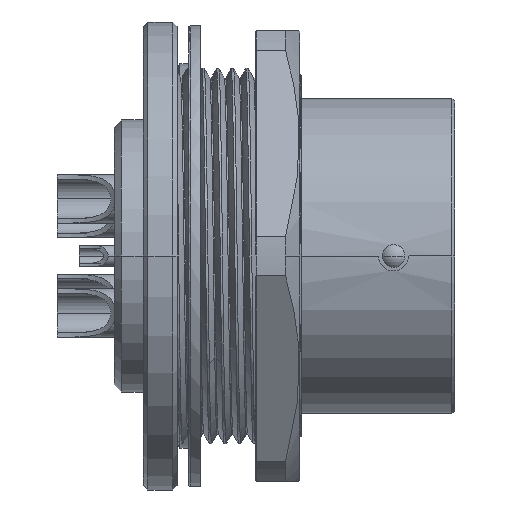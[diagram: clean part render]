
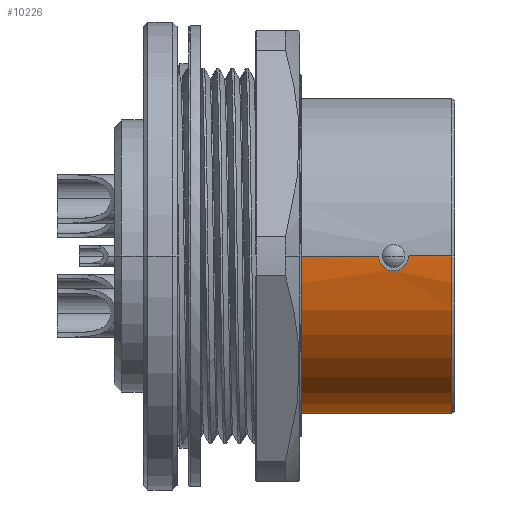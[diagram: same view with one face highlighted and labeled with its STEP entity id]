
A CAD part, front view. The second image highlights one B-rep face of the part: STEP entity #10226.
In plain terms, the highlighted cylindrical face has radius 10.8 mm (diameter 21.6 mm), a partial arc.
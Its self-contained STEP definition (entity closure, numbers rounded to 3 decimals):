
#3706=CARTESIAN_POINT('',(12.8,17.052,-17.05));
#3707=DIRECTION('',(1.,0.,0.));
#3708=DIRECTION('',(0.,-1.,0.));
#3709=AXIS2_PLACEMENT_3D('',#3706,#3707,#3708);
#3711=CARTESIAN_POINT('',(20.125,6.252,-17.05));
#3712=CARTESIAN_POINT('',(20.125,6.252,-17.159));
#3713=CARTESIAN_POINT('',(20.092,6.255,-17.367));
#3714=CARTESIAN_POINT('',(19.945,6.268,-17.661));
#3715=CARTESIAN_POINT('',(19.71,6.284,-17.895));
#3716=CARTESIAN_POINT('',(19.424,6.297,-18.04));
#3717=CARTESIAN_POINT('',(19.102,6.302,-18.092));
#3718=CARTESIAN_POINT('',(18.775,6.297,-18.04));
#3719=CARTESIAN_POINT('',(18.489,6.284,-17.893));
#3720=CARTESIAN_POINT('',(18.259,6.268,-17.665));
#3721=CARTESIAN_POINT('',(18.109,6.255,-17.373));
#3722=CARTESIAN_POINT('',(18.076,6.252,-17.162));
#3723=CARTESIAN_POINT('',(18.075,6.252,-17.05));
#3725=DIRECTION('',(1.,0.,0.));
#3726=VECTOR('',#3725,8.68);
#3727=CARTESIAN_POINT('',(12.8,27.852,-17.05));
#3728=LINE('',#3727,#3726);
#3739=CARTESIAN_POINT('',(22.52,27.852,-17.05));
#3741=DIRECTION('',(1.,0.,0.));
#3742=VECTOR('',#3741,0.58);
#3743=CARTESIAN_POINT('',(22.52,27.852,-17.05));
#3744=LINE('',#3743,#3742);
#3771=DIRECTION('',(1.,0.,0.));
#3772=VECTOR('',#3771,2.975);
#3773=CARTESIAN_POINT('',(20.125,6.252,-17.05));
#3774=LINE('',#3773,#3772);
#3775=CARTESIAN_POINT('',(22.52,27.852,-17.05));
#3776=CARTESIAN_POINT('',(22.52,27.852,-17.122));
#3777=CARTESIAN_POINT('',(22.492,27.85,-17.254));
#3778=CARTESIAN_POINT('',(22.376,27.846,-17.428));
#3779=CARTESIAN_POINT('',(22.209,27.841,-17.54));
#3780=CARTESIAN_POINT('',(22.002,27.839,-17.584));
#3781=CARTESIAN_POINT('',(21.797,27.841,-17.542));
#3782=CARTESIAN_POINT('',(21.626,27.845,-17.431));
#3783=CARTESIAN_POINT('',(21.508,27.85,-17.255));
#3784=CARTESIAN_POINT('',(21.48,27.852,-17.122));
#3785=CARTESIAN_POINT('',(21.48,27.852,-17.05));
#3787=DIRECTION('',(1.,0.,0.));
#3788=VECTOR('',#3787,5.275);
#3789=CARTESIAN_POINT('',(12.8,6.252,-17.05));
#3790=LINE('',#3789,#3788);
#3791=CARTESIAN_POINT('',(19.86,22.452,-26.403));
#3792=CARTESIAN_POINT('',(19.86,22.367,-26.452));
#3793=CARTESIAN_POINT('',(19.826,22.208,-26.541));
#3794=CARTESIAN_POINT('',(19.686,21.992,-26.655));
#3795=CARTESIAN_POINT('',(19.481,21.839,-26.732));
#3796=CARTESIAN_POINT('',(19.232,21.756,-26.772));
#3797=CARTESIAN_POINT('',(18.966,21.756,-26.772));
#3798=CARTESIAN_POINT('',(18.718,21.839,-26.731));
#3799=CARTESIAN_POINT('',(18.514,21.992,-26.654));
#3800=CARTESIAN_POINT('',(18.374,22.208,-26.541));
#3801=CARTESIAN_POINT('',(18.34,22.367,-26.452));
#3802=CARTESIAN_POINT('',(18.34,22.452,-26.403));
#3804=CARTESIAN_POINT('',(23.1,17.052,-17.05));
#3805=DIRECTION('',(-1.,0.,0.));
#3806=DIRECTION('',(0.,1.,0.));
#3807=AXIS2_PLACEMENT_3D('',#3804,#3805,#3806);
#3809=CARTESIAN_POINT('',(23.1,17.052,-17.05));
#3810=DIRECTION('',(-1.,0.,0.));
#3811=DIRECTION('',(0.,0.,-1.));
#3812=AXIS2_PLACEMENT_3D('',#3809,#3810,#3811);
#4567=CARTESIAN_POINT('',(19.86,22.452,-26.403));
#4568=CARTESIAN_POINT('',(19.86,22.493,-26.379));
#4569=CARTESIAN_POINT('',(19.852,22.575,-26.331));
#4570=CARTESIAN_POINT('',(19.813,22.697,-26.258));
#4571=CARTESIAN_POINT('',(19.749,22.808,-26.188));
#4572=CARTESIAN_POINT('',(19.667,22.903,-26.128));
#4573=CARTESIAN_POINT('',(19.572,22.978,-26.079));
#4574=CARTESIAN_POINT('',(19.476,23.033,-26.042));
#4575=CARTESIAN_POINT('',(19.382,23.072,-26.017));
#4576=CARTESIAN_POINT('',(19.289,23.097,-25.999));
#4577=CARTESIAN_POINT('',(19.195,23.113,-25.989));
#4578=CARTESIAN_POINT('',(19.101,23.118,-25.986));
#4579=CARTESIAN_POINT('',(19.005,23.113,-25.989));
#4580=CARTESIAN_POINT('',(18.912,23.098,-25.999));
#4581=CARTESIAN_POINT('',(18.819,23.072,-26.016));
#4582=CARTESIAN_POINT('',(18.726,23.034,-26.042));
#4583=CARTESIAN_POINT('',(18.629,22.98,-26.078));
#4584=CARTESIAN_POINT('',(18.533,22.903,-26.128));
#4585=CARTESIAN_POINT('',(18.45,22.807,-26.189));
#4586=CARTESIAN_POINT('',(18.387,22.696,-26.258));
#4587=CARTESIAN_POINT('',(18.349,22.576,-26.331));
#4588=CARTESIAN_POINT('',(18.34,22.494,-26.379));
#4589=CARTESIAN_POINT('',(18.34,22.452,-26.403));
#5139=CARTESIAN_POINT('',(12.8,27.852,-17.05));
#5140=CARTESIAN_POINT('',(12.8,6.252,-17.05));
#5141=VERTEX_POINT('',#5139);
#5142=VERTEX_POINT('',#5140);
#5143=CARTESIAN_POINT('',(20.125,6.252,-17.05));
#5144=CARTESIAN_POINT('',(23.1,6.252,-17.05));
#5145=VERTEX_POINT('',#5143);
#5146=VERTEX_POINT('',#5144);
#5147=VERTEX_POINT('',#3723);
#5148=CARTESIAN_POINT('',(21.48,27.852,-17.05));
#5149=VERTEX_POINT('',#5148);
#5150=VERTEX_POINT('',#3739);
#5151=CARTESIAN_POINT('',(23.1,27.852,-17.05));
#5152=VERTEX_POINT('',#5151);
#5185=VERTEX_POINT('',#3791);
#5186=VERTEX_POINT('',#3802);
#5191=CARTESIAN_POINT('',(23.1,17.052,-27.85));
#5192=VERTEX_POINT('',#5191);
#10201=CARTESIAN_POINT('',(-1.165,17.052,-17.05));
#10202=DIRECTION('',(1.,0.,0.));
#10203=DIRECTION('',(0.,-1.,0.));
#10204=AXIS2_PLACEMENT_3D('',#10201,#10202,#10203);
#10205=CYLINDRICAL_SURFACE('',#10204,10.8);
#10206=ORIENTED_EDGE('',*,*,#10169,.T.);
#10208=ORIENTED_EDGE('',*,*,#10207,.F.);
#10210=ORIENTED_EDGE('',*,*,#10209,.F.);
#10211=ORIENTED_EDGE('',*,*,#10180,.F.);
#10213=ORIENTED_EDGE('',*,*,#10212,.T.);
#10214=ORIENTED_EDGE('',*,*,#10176,.F.);
#10215=ORIENTED_EDGE('',*,*,#10159,.F.);
#10216=ORIENTED_EDGE('',*,*,#10173,.T.);
#10217=ORIENTED_EDGE('',*,*,#10171,.F.);
#10218=EDGE_LOOP('',(#10206,#10208,#10210,#10211,#10213,#10214,#10215,#10216,
#10217));
#10219=FACE_OUTER_BOUND('',#10218,.F.);
#10221=ORIENTED_EDGE('',*,*,#10220,.T.);
#10223=ORIENTED_EDGE('',*,*,#10222,.F.);
#10224=EDGE_LOOP('',(#10221,#10223));
#10225=FACE_BOUND('',#10224,.F.);
#3710=CIRCLE('',#3709,10.8);
#3724=B_SPLINE_CURVE_WITH_KNOTS('',3,(#3711,#3712,#3713,#3714,#3715,#3716,#3717,
#3718,#3719,#3720,#3721,#3722,#3723),.UNSPECIFIED.,.F.,.F.,(4,1,1,1,1,1,1,1,1,1,
4),(0.,0.1,0.2,0.3,0.4,0.5,0.6,0.7,0.8,0.9,1.),
.UNSPECIFIED.);
#3786=B_SPLINE_CURVE_WITH_KNOTS('',3,(#3775,#3776,#3777,#3778,#3779,#3780,#3781,
#3782,#3783,#3784,#3785),.UNSPECIFIED.,.F.,.F.,(4,1,1,1,1,1,1,1,4),(0.,
0.125,0.25,0.375,0.5,0.625,0.75,0.875,1.),.UNSPECIFIED.);
#3803=B_SPLINE_CURVE_WITH_KNOTS('',3,(#3791,#3792,#3793,#3794,#3795,#3796,#3797,
#3798,#3799,#3800,#3801,#3802),.UNSPECIFIED.,.F.,.F.,(4,1,1,1,1,1,1,1,1,4),
(0.,0.111,0.222,0.333,0.444,
0.556,0.667,0.778,0.889,1.),
.UNSPECIFIED.);
#3808=CIRCLE('',#3807,10.8);
#3813=CIRCLE('',#3812,10.8);
#4590=B_SPLINE_CURVE_WITH_KNOTS('',3,(#4567,#4568,#4569,#4570,#4571,#4572,#4573,
#4574,#4575,#4576,#4577,#4578,#4579,#4580,#4581,#4582,#4583,#4584,#4585,#4586,
#4587,#4588,#4589),.UNSPECIFIED.,.F.,.F.,(4,1,1,1,1,1,1,1,1,1,1,1,1,1,1,1,1,1,1,
1,4),(0.,0.05,0.1,0.15,0.2,0.25,0.3,0.35,0.4,0.45,0.5,
0.55,0.6,0.65,0.7,0.75,0.8,0.85,0.9,0.95,1.),.UNSPECIFIED.);
#10159=EDGE_CURVE('',#5142,#5141,#3710,.T.);
#10169=EDGE_CURVE('',#5145,#5146,#3774,.T.);
#10171=EDGE_CURVE('',#5145,#5147,#3724,.T.);
#10173=EDGE_CURVE('',#5142,#5147,#3790,.T.);
#10176=EDGE_CURVE('',#5141,#5149,#3728,.T.);
#10180=EDGE_CURVE('',#5150,#5152,#3744,.T.);
#10207=EDGE_CURVE('',#5192,#5146,#3813,.T.);
#10209=EDGE_CURVE('',#5152,#5192,#3808,.T.);
#10212=EDGE_CURVE('',#5150,#5149,#3786,.T.);
#10220=EDGE_CURVE('',#5185,#5186,#3803,.T.);
#10222=EDGE_CURVE('',#5185,#5186,#4590,.T.);
#10226=ADVANCED_FACE('',(#10219,#10225),#10205,.T.);
